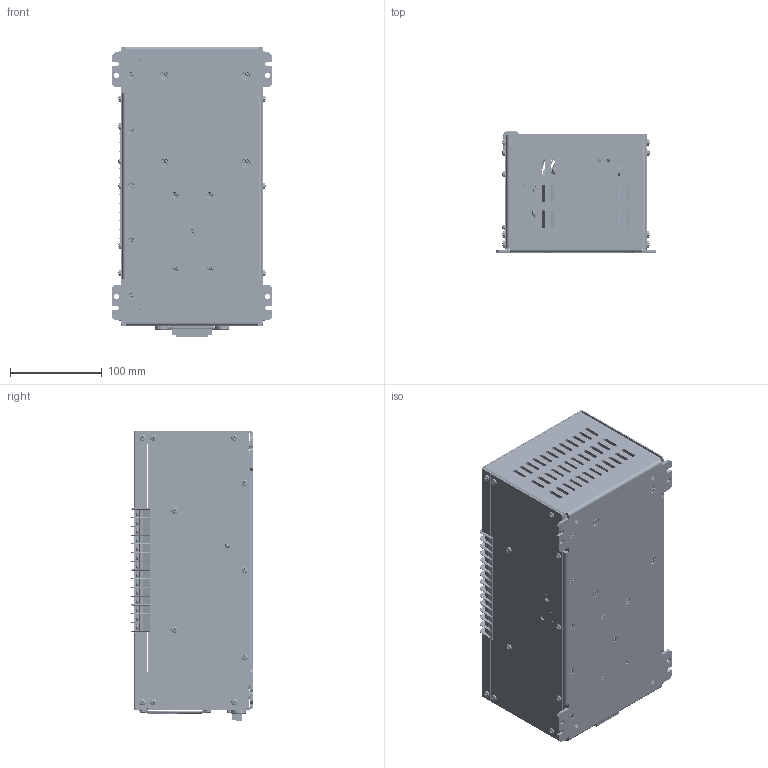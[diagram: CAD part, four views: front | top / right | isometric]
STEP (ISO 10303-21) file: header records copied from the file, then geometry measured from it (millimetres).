
FILE_DESCRIPTION (( 'STEP AP214' ), '1' );
FILE_NAME ('DPFHP001X250A.STEP', '2010-11-15T19:29:43', ( 'Tim Raines' ), ( 'Anaheim Automation' ), 'SwSTEP 2.0', 'SolidWorks 2010', '' );
FILE_SCHEMA (( 'AUTOMOTIVE_DESIGN' ));
Length unit declared in the file: inch
Products named in the file (55): LED-SPR5731_LED-SPR5731-RED; CAP-0064; QDS-836; CAP-0063; Pan Cross Head_AI_CR-PHMS 0.112-40x0.3125x0.3125-S; WSH-KE3049; DIO-MBR1635; AA2656APCB; Sub Chassis, Power supply, DPFHP001; SUB-AA2656A-1; Pan Cross Head_AI_CR-PHMS 0.138-32x0.5x0.5-S; Flat Washer Type A Narrow_AI_Preferred Narrow FW 0.138; DIO-KBU8G_Longest pins; Pan Cross Head_AI_CR-PHMS 0.112-40x0.25x0.25-S; TMB-SSB6FP140702NN; TRS-BU941P; Heat Sink, BLHP101; CON-929834-01-03; CON-22-03-2051; DIO-MUR1515; Thru-hole Standoff_PMI_PEM SOS-632-24 ---S; Heat Sink Bracket, BLHP101 driver; RES-3W-.05; 1827774; Transformer, AA2786B; Internal Tooth-lock Washers_AI_Internal Tooth LW Type A-0.164; Flat Washer Type A Narrow_AI_Preferred Narrow FW 0.164; Flat Head Screw_AI_CR-FHMS 0.164-32x0.5x0.5-S; Pan Cross Head_AI_CR-PHMS 0.138-32x0.25x0.25-S; Machine Screw Nut Hex_AI_MSHXNUT 0.086-56-D-S; Machine Screw Nut Hex_AI_MSHXNUT 0.164-32-D-S; Flat Head Screw_AI_CR-FHMS 0.138-32x0.25x0.25-S; Pan Cross Head_AI_CR-PHMS 0.086-56x0.375x0.375-S; Machine Screw Nut Hex_AI_MSHXNUT 0.138-32-D-S; Internal Tooth-lock Washers_AI_Internal Tooth LW Type A-0.138; Pan Cross Head_AI_CR-PHMS 0.138-32x0.5625x0.5625-S; Side Plate, DPFHP001, driver; Side Plate, DPFHP001, blank; Cover, DPFHP001; FAN-GUARD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
Assembly tree (147 placements, depth 4):
  DPFHP001X250A
    Pan Cross Head_AI_CR-PHMS 0.138-32x0.25x0.25-S  x20
    Machine Screw Nut Hex_AI_MSHXNUT 0.086-56-D-S
    Cover, DPFHP001
    Flat Head Screw_AI_CR-FHMS 0.138-32x0.25x0.25-S  x10
    Machine Screw Nut Hex_AI_MSHXNUT 0.138-32-D-S  x4
    Internal Tooth-lock Washers_AI_Internal Tooth LW Type A-0.164  x4
    Machine Screw Nut Hex_AI_MSHXNUT 0.164-32-D-S  x3
    FSH-342038L  x2
    Pan Cross Head_AI_CR-PHMS 0.086-56x0.375x0.375-S  x2
    Side Plate, DPFHP001, driver
    Internal Tooth-lock Washers_AI_Internal Tooth LW Type A-0.138  x4
    NUT, FSH-382038L  x2
    Side Plate, DPFHP001, blank
    Flat Head Screw_AI_CR-FHMS 0.164-32x0.5x0.5-S  x4
    Flat Washer Type A Narrow_AI_Preferred Narrow FW 0.164  x4
    Pan Cross Head_AI_CR-PHMS 0.138-32x0.5625x0.5625-S  x4
    1827774
    Chassis, DPFHP451X250A
      Self-clinching Nut_PMI_PEM SS-032-3 ZI--S  x4
      Chassis, DPFHP451X250A
    1829400
    FAN-0003
    FAN-GUARD
    Transformer, AA2786B
    SUB-AA2656A-1
      QDS-836  x9
      CAP-0064  x2
      Pan Cross Head_AI_CR-PHMS 0.112-40x0.3125x0.3125-S  x6
      Sub Chassis, Power supply, DPFHP001
      CAP-0063
      WSH-KE3049  x2
      DIO-MBR1635  x2
      Flat Washer Type A Narrow_AI_Preferred Narrow FW 0.138
      DIO-KBU8G_Longest pins
      Pan Cross Head_AI_CR-PHMS 0.138-32x0.5x0.5-S
      AA2656APCB
    SUB-AA2654B-1
      Pan Cross Head_AI_CR-PHMS 0.112-40x0.25x0.25-S  x3
      CON-929834-01-03  x3
      CON-22-03-2051
      LED-LTM Series_LED-LTM180
      Pan Cross Head_AI_CR-PHMS 0.112-40x0.3125x0.3125-S  x6
      TRS-BU941P  x6
      Heat Sink, BLHP101
        Thru-hole Standoff_PMI_PEM SOS-632-24 ---S  x2
        Heat Sink Bracket, BLHP101 driver
      RES-3W-.05  x4
      CAP-0049
      VRG-LM317T, bent up legs
      WSH-KE3049  x3
      TMB-SSB6FP140702NN
      CON-0039
      DIO-MUR1515  x2
      AA2654BPCB
      LED-SPR5731_LED-SPR5731-RED
      POT-93PR10K
Bounding box: 175.26 x 132.72 x 317.8 mm (x, y, z)
Volume: 1802955.3 mm3; surface area: 789548.7 mm2
Topology: 151 solids, 155 shells, 17703 faces, 45998 edges, 29506 vertices
Faces by surface type: plane 8288, cylinder 3689, cone 2971, bspline 2310, torus 360, sphere 85
Entity records: 604607 total; most frequent: CARTESIAN_POINT 193302, ORIENTED_EDGE 61490, DIRECTION 50413, EDGE_CURVE 30745, VERTEX_POINT 20032, LINE 19973, VECTOR 19973, AXIS2_PLACEMENT_3D 15220
